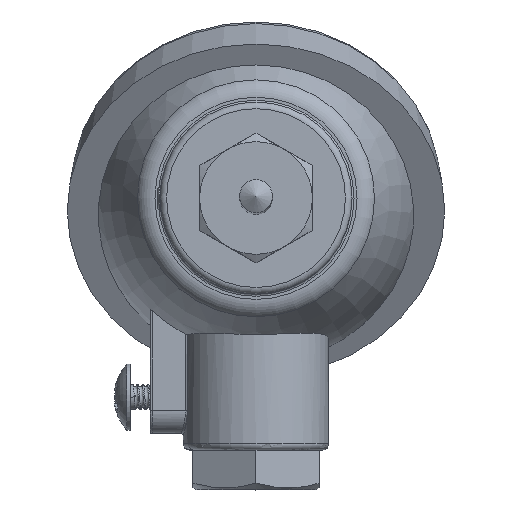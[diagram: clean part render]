
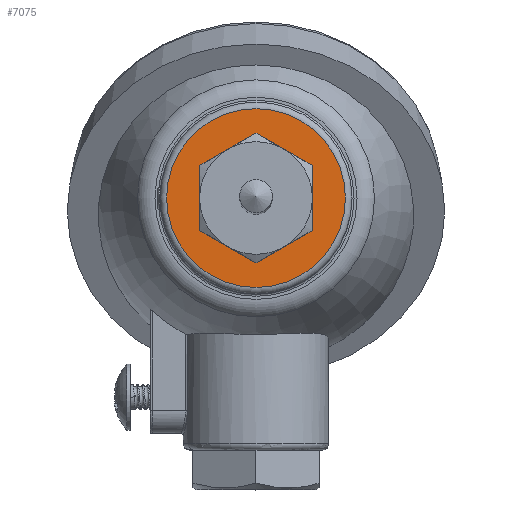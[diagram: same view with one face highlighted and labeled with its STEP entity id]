
A CAD part, top view. The second image highlights one B-rep face of the part: STEP entity #7075.
In plain terms, the highlighted planar face has unit normal (0, 0, 1).
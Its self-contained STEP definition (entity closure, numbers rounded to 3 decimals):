
#99 = EDGE_CURVE ( 'NONE', #2176, #2733, #808, .T. ) ;
#210 = AXIS2_PLACEMENT_3D ( 'NONE', #4777, #7742, #6513 ) ;
#316 = EDGE_LOOP ( 'NONE', ( #6859, #1150, #4694, #6195, #6651, #6329 ) ) ;
#593 = LINE ( 'NONE', #3051, #1236 ) ;
#600 = DIRECTION ( 'NONE',  ( 0.866, 0.5, 0. ) ) ;
#683 = CARTESIAN_POINT ( 'NONE',  ( 0., 9.8, -5. ) ) ;
#759 = EDGE_CURVE ( 'NONE', #1406, #6815, #6374, .T. ) ;
#808 = LINE ( 'NONE', #3223, #7729 ) ;
#857 = CARTESIAN_POINT ( 'NONE',  ( 8.487, 4.9, -5. ) ) ;
#954 = CARTESIAN_POINT ( 'NONE',  ( 0., 13.5, -5. ) ) ;
#1150 = ORIENTED_EDGE ( 'NONE', *, *, #759, .F. ) ;
#1152 = DIRECTION ( 'NONE',  ( 0., -1., 0. ) ) ;
#1236 = VECTOR ( 'NONE', #7894, 1000. ) ;
#1327 = CARTESIAN_POINT ( 'NONE',  ( 0., 0., -5. ) ) ;
#1406 = VERTEX_POINT ( 'NONE', #7462 ) ;
#1609 = DIRECTION ( 'NONE',  ( -0.866, -0.5, 0. ) ) ;
#1616 = VERTEX_POINT ( 'NONE', #2846 ) ;
#1736 = LINE ( 'NONE', #4769, #6479 ) ;
#1782 = PLANE ( 'NONE',  #210 ) ;
#2036 = CIRCLE ( 'NONE', #3318, 13.5 ) ;
#2176 = VERTEX_POINT ( 'NONE', #857 ) ;
#2733 = VERTEX_POINT ( 'NONE', #683 ) ;
#2786 = VECTOR ( 'NONE', #3319, 1000. ) ;
#2846 = CARTESIAN_POINT ( 'NONE',  ( 8.487, -4.9, -5. ) ) ;
#2973 = FACE_BOUND ( 'NONE', #316, .T. ) ;
#3051 = CARTESIAN_POINT ( 'NONE',  ( 8.487, -4.9, -5. ) ) ;
#3069 = VECTOR ( 'NONE', #600, 1000. ) ;
#3103 = DIRECTION ( 'NONE',  ( -0.866, 0.5, 0. ) ) ;
#3223 = CARTESIAN_POINT ( 'NONE',  ( 8.487, 4.9, -5. ) ) ;
#3318 = AXIS2_PLACEMENT_3D ( 'NONE', #1327, #6194, #4952 ) ;
#3319 = DIRECTION ( 'NONE',  ( 0.866, -0.5, 0. ) ) ;
#3619 = CARTESIAN_POINT ( 'NONE',  ( 0., -9.8, -5. ) ) ;
#3658 = VECTOR ( 'NONE', #1609, 1000. ) ;
#3744 = EDGE_CURVE ( 'NONE', #6815, #1616, #4828, .T. ) ;
#3786 = EDGE_LOOP ( 'NONE', ( #6338 ) ) ;
#4077 = VERTEX_POINT ( 'NONE', #4237 ) ;
#4237 = CARTESIAN_POINT ( 'NONE',  ( -8.487, 4.9, -5. ) ) ;
#4318 = EDGE_CURVE ( 'NONE', #2733, #4077, #7687, .T. ) ;
#4494 = VERTEX_POINT ( 'NONE', #954 ) ;
#4694 = ORIENTED_EDGE ( 'NONE', *, *, #7666, .F. ) ;
#4749 = EDGE_CURVE ( 'NONE', #4494, #4494, #2036, .T. ) ;
#4769 = CARTESIAN_POINT ( 'NONE',  ( -8.487, 4.9, -5. ) ) ;
#4777 = CARTESIAN_POINT ( 'NONE',  ( 0., 0., -5. ) ) ;
#4828 = LINE ( 'NONE', #3619, #3069 ) ;
#4952 = DIRECTION ( 'NONE',  ( 0., 1., 0. ) ) ;
#5146 = CARTESIAN_POINT ( 'NONE',  ( 0., -9.8, -5. ) ) ;
#5881 = CARTESIAN_POINT ( 'NONE',  ( 0., 9.8, -5. ) ) ;
#6194 = DIRECTION ( 'NONE',  ( 0., 0., 1. ) ) ;
#6195 = ORIENTED_EDGE ( 'NONE', *, *, #4318, .F. ) ;
#6329 = ORIENTED_EDGE ( 'NONE', *, *, #7402, .F. ) ;
#6338 = ORIENTED_EDGE ( 'NONE', *, *, #4749, .T. ) ;
#6374 = LINE ( 'NONE', #7603, #2786 ) ;
#6479 = VECTOR ( 'NONE', #1152, 1000. ) ;
#6513 = DIRECTION ( 'NONE',  ( 0., 1., 0. ) ) ;
#6651 = ORIENTED_EDGE ( 'NONE', *, *, #99, .F. ) ;
#6815 = VERTEX_POINT ( 'NONE', #5146 ) ;
#6859 = ORIENTED_EDGE ( 'NONE', *, *, #3744, .F. ) ;
#7075 = ADVANCED_FACE ( 'NONE', ( #2973, #7184 ), #1782, .F. ) ;
#7184 = FACE_OUTER_BOUND ( 'NONE', #3786, .T. ) ;
#7402 = EDGE_CURVE ( 'NONE', #1616, #2176, #593, .T. ) ;
#7462 = CARTESIAN_POINT ( 'NONE',  ( -8.487, -4.9, -5. ) ) ;
#7603 = CARTESIAN_POINT ( 'NONE',  ( -8.487, -4.9, -5. ) ) ;
#7666 = EDGE_CURVE ( 'NONE', #4077, #1406, #1736, .T. ) ;
#7687 = LINE ( 'NONE', #5881, #3658 ) ;
#7729 = VECTOR ( 'NONE', #3103, 1000. ) ;
#7742 = DIRECTION ( 'NONE',  ( 0., 0., -1. ) ) ;
#7894 = DIRECTION ( 'NONE',  ( 0., 1., 0. ) ) ;
